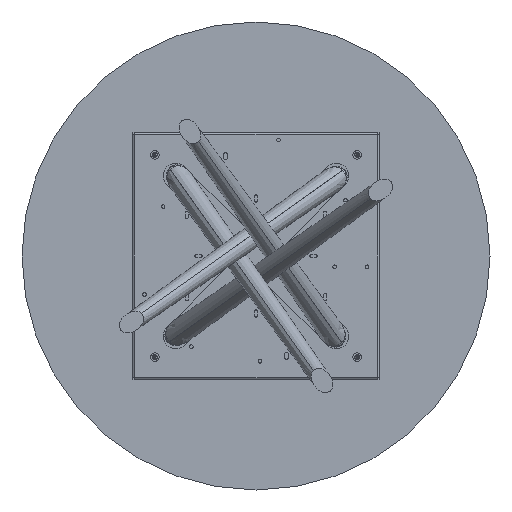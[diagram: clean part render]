
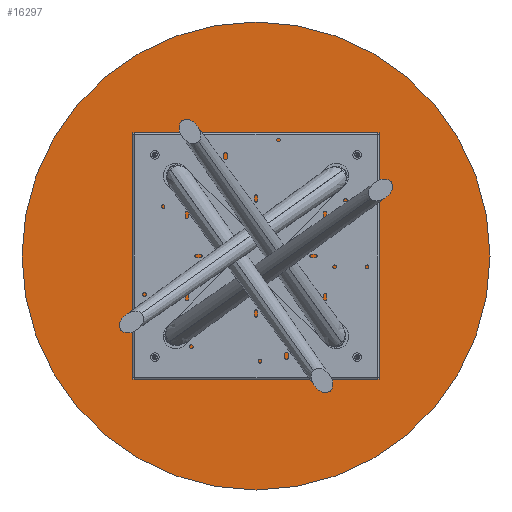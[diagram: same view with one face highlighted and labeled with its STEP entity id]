
A CAD part, front view. The second image highlights one B-rep face of the part: STEP entity #16297.
In plain terms, the highlighted planar face has unit normal (0, -1, 0).
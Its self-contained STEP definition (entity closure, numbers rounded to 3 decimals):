
#14 = CIRCLE ( 'NONE', #12322, 650. ) ;
#920 = ORIENTED_EDGE ( 'NONE', *, *, #4398, .T. ) ;
#1021 = CARTESIAN_POINT ( 'NONE',  ( 0., 0., 0. ) ) ;
#1069 = DIRECTION ( 'NONE',  ( 0., 0., -1. ) ) ;
#1435 = DIRECTION ( 'NONE',  ( 0., 0., -1. ) ) ;
#3829 = PLANE ( 'NONE',  #15613 ) ;
#4398 = EDGE_CURVE ( 'NONE', #11854, #10456, #8455, .T. ) ;
#5178 = DIRECTION ( 'NONE',  ( 0., -1., 0. ) ) ;
#5306 = EDGE_LOOP ( 'NONE', ( #7709, #920 ) ) ;
#7410 = CARTESIAN_POINT ( 'NONE',  ( 0., 0., -650. ) ) ;
#7709 = ORIENTED_EDGE ( 'NONE', *, *, #13558, .T. ) ;
#7810 = CARTESIAN_POINT ( 'NONE',  ( 0., 0., 0. ) ) ;
#8455 = CIRCLE ( 'NONE', #13797, 650. ) ;
#8730 = DIRECTION ( 'NONE',  ( 0., -1., 0. ) ) ;
#8943 = CARTESIAN_POINT ( 'NONE',  ( 0., 0., 0. ) ) ;
#10456 = VERTEX_POINT ( 'NONE', #7410 ) ;
#11854 = VERTEX_POINT ( 'NONE', #12036 ) ;
#12036 = CARTESIAN_POINT ( 'NONE',  ( 0., 0., 650. ) ) ;
#12322 = AXIS2_PLACEMENT_3D ( 'NONE', #1021, #8730, #13832 ) ;
#13558 = EDGE_CURVE ( 'NONE', #10456, #11854, #14, .T. ) ;
#13797 = AXIS2_PLACEMENT_3D ( 'NONE', #7810, #14435, #1435 ) ;
#13832 = DIRECTION ( 'NONE',  ( 0., 0., -1. ) ) ;
#14435 = DIRECTION ( 'NONE',  ( 0., -1., 0. ) ) ;
#15143 = FACE_OUTER_BOUND ( 'NONE', #5306, .T. ) ;
#15613 = AXIS2_PLACEMENT_3D ( 'NONE', #8943, #5178, #1069 ) ;
#16297 = ADVANCED_FACE ( 'NONE', ( #15143 ), #3829, .T. ) ;
